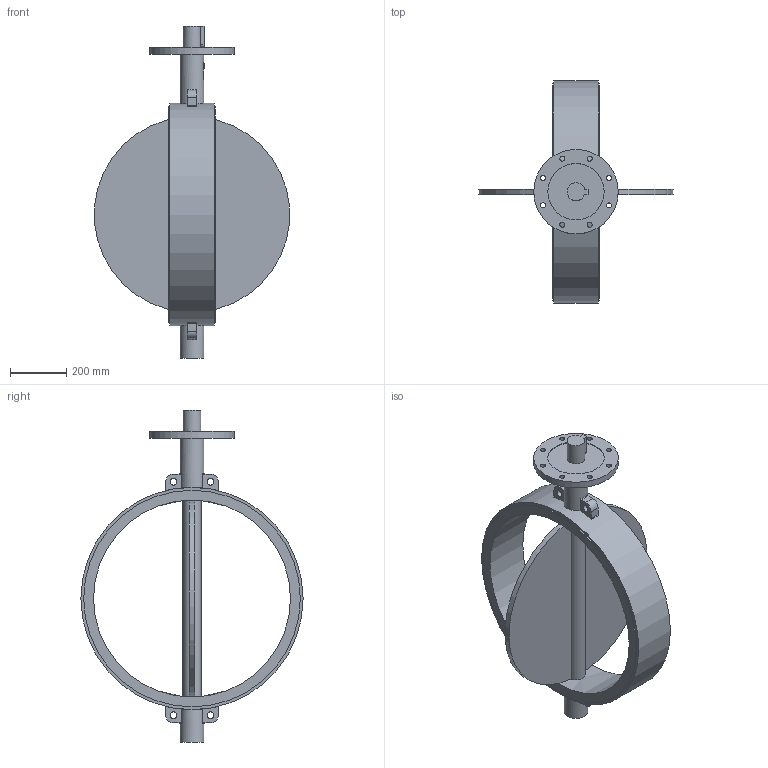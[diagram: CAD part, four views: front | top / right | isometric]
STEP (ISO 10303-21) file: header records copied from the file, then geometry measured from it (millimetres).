
FILE_DESCRIPTION(('STEP AP203'), '1');
FILE_NAME('青蜮铕 017W.YS_DN700_PN10', '', ('UNSPECIFIED'), ('UNSPECIFIED'), 'ASCON STEP Converter 1.6', 'ASCON Math Kernel', '');
FILE_SCHEMA(('CONFIG_CONTROL_DESIGN'));
Length unit declared in the file: millimetre
Bounding box: 692.36 x 790 x 1180 mm (x, y, z)
Volume: 30093190.4 mm3; surface area: 2091222.2 mm2
Topology: 1 solids, 1 shells, 93 faces, 232 edges, 154 vertices
Faces by surface type: plane 48, cylinder 41, torus 4
Full cylindrical faces by diameter (mm): 18 x8, 23.752 x4, 63.4 x1, 65 x1, 85 x2, 200 x1, 300 x1, 700 x1, 770 x2, 790 x1
Entity records: 4560 total; most frequent: CARTESIAN_POINT 1521, DIRECTION 476, ORIENTED_EDGE 420, EDGE_CURVE 210, AXIS2_PLACEMENT_3D 192, EDGE_LOOP 156, VERTEX_POINT 154, FACE_BOUND 115
